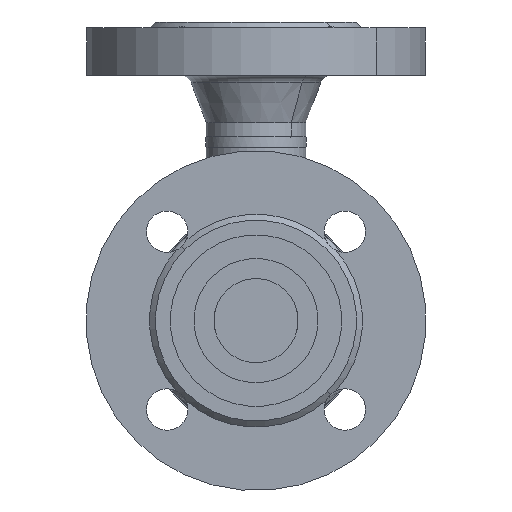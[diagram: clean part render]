
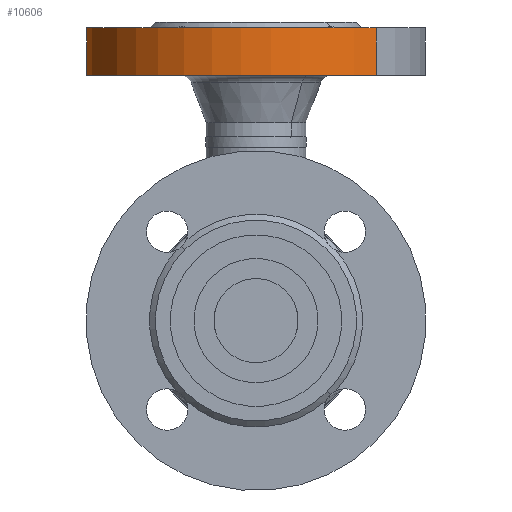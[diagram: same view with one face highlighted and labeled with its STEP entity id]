
A CAD part, front view. The second image highlights one B-rep face of the part: STEP entity #10606.
In plain terms, the highlighted cylindrical face has radius 57.5 mm (diameter 115 mm), a partial arc.
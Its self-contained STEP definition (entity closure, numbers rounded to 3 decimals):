
#3324 = EDGE_CURVE ( 'NONE', #9322, #4188, #7457, .T. ) ;
#3680 = ORIENTED_EDGE ( 'NONE', *, *, #3324, .F. ) ;
#4188 = VERTEX_POINT ( 'NONE', #11507 ) ;
#4404 = EDGE_CURVE ( 'NONE', #4188, #8015, #11771, .T. ) ;
#4730 = ORIENTED_EDGE ( 'NONE', *, *, #4404, .F. ) ;
#7457 = LINE ( 'NONE', #7458, #7459 ) ;
#7458 = CARTESIAN_POINT ( 'NONE',  ( -57.5, 75., 0. ) ) ;
#7459 = VECTOR ( 'NONE', #7460, 1000. ) ;
#7460 = DIRECTION ( 'NONE',  ( 0., 1., 0. ) ) ;
#7547 = CARTESIAN_POINT ( 'NONE',  ( 57.5, 18., 0. ) ) ;
#7882 = LINE ( 'NONE', #7883, #7884 ) ;
#7883 = CARTESIAN_POINT ( 'NONE',  ( 57.5, 75., 0. ) ) ;
#7884 = VECTOR ( 'NONE', #7885, 1000. ) ;
#7885 = DIRECTION ( 'NONE',  ( 0., 1., 0. ) ) ;
#8015 = VERTEX_POINT ( 'NONE', #7547 ) ;
#8239 = EDGE_CURVE ( 'NONE', #9111, #8015, #7882, .T. ) ;
#8601 = ORIENTED_EDGE ( 'NONE', *, *, #8239, .T. ) ;
#9111 = VERTEX_POINT ( 'NONE', #11954 ) ;
#9322 = VERTEX_POINT ( 'NONE', #14873 ) ;
#9537 = EDGE_CURVE ( 'NONE', #9322, #9111, #15195, .T. ) ;
#9905 = ORIENTED_EDGE ( 'NONE', *, *, #9537, .T. ) ;
#10408 = EDGE_LOOP ( 'NONE', ( #9905, #8601, #4730, #3680 ) ) ;
#10606 = ADVANCED_FACE ( 'NONE', ( #16011 ), #16012, .T. ) ;
#11507 = CARTESIAN_POINT ( 'NONE',  ( -57.5, 18., 0. ) ) ;
#11771 = CIRCLE ( 'NONE', #11772, 57.5 ) ;
#11772 = AXIS2_PLACEMENT_3D ( 'NONE', #11773, #11774, #11775 ) ;
#11773 = CARTESIAN_POINT ( 'NONE',  ( 0., 18., 0. ) ) ;
#11774 = DIRECTION ( 'NONE',  ( 0., 1., 0. ) ) ;
#11775 = DIRECTION ( 'NONE',  ( -1., 0., 0. ) ) ;
#11954 = CARTESIAN_POINT ( 'NONE',  ( 57.5, 2., 0. ) ) ;
#14873 = CARTESIAN_POINT ( 'NONE',  ( -57.5, 2., 0. ) ) ;
#15195 = CIRCLE ( 'NONE', #15196, 57.5 ) ;
#15196 = AXIS2_PLACEMENT_3D ( 'NONE', #15197, #15198, #15199 ) ;
#15197 = CARTESIAN_POINT ( 'NONE',  ( 0., 2., 0. ) ) ;
#15198 = DIRECTION ( 'NONE',  ( 0., 1., 0. ) ) ;
#15199 = DIRECTION ( 'NONE',  ( -1., 0., 0. ) ) ;
#16011 = FACE_OUTER_BOUND ( 'NONE', #10408, .T. ) ;
#16012 = CYLINDRICAL_SURFACE ( 'NONE', #16013, 57.5 ) ;
#16013 = AXIS2_PLACEMENT_3D ( 'NONE', #16014, #16015, #16016 ) ;
#16014 = CARTESIAN_POINT ( 'NONE',  ( 0., 75., 0. ) ) ;
#16015 = DIRECTION ( 'NONE',  ( 0., 1., 0. ) ) ;
#16016 = DIRECTION ( 'NONE',  ( -1., 0., 0. ) ) ;
